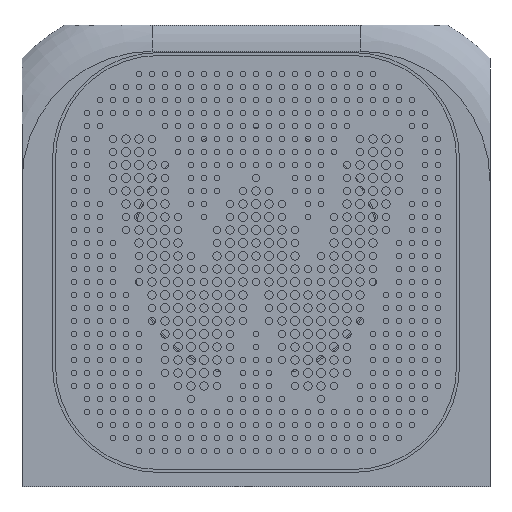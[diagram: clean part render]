
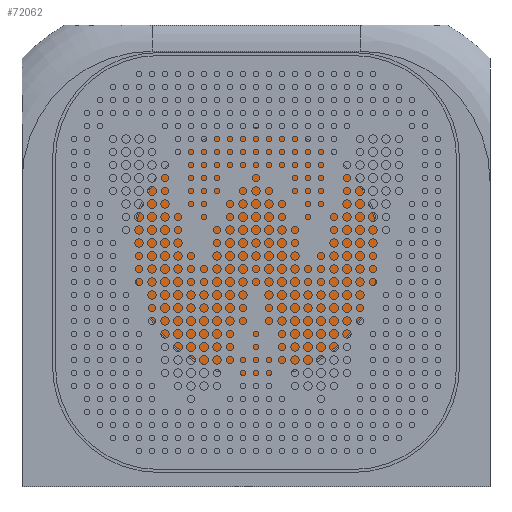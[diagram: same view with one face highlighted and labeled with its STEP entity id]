
A CAD part, front view. The second image highlights one B-rep face of the part: STEP entity #72062.
In plain terms, the highlighted planar face has unit normal (0, -1, 0).
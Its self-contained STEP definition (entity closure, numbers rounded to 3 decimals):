
#71978 = EDGE_CURVE('',#71979,#71979,#71981,.T.);
#71979 = VERTEX_POINT('',#71980);
#71980 = CARTESIAN_POINT('',(19.,-13.2,36.));
#71981 = SURFACE_CURVE('',#71982,(#71987,#71999),.PCURVE_S1.);
#71982 = CIRCLE('',#71983,19.);
#71983 = AXIS2_PLACEMENT_3D('',#71984,#71985,#71986);
#71984 = CARTESIAN_POINT('',(0.,-13.2,36.));
#71985 = DIRECTION('',(-0.,1.,0.));
#71986 = DIRECTION('',(1.,0.,0.));
#71987 = PCURVE('',#71988,#71993);
#71988 = CYLINDRICAL_SURFACE('',#71989,19.);
#71989 = AXIS2_PLACEMENT_3D('',#71990,#71991,#71992);
#71990 = CARTESIAN_POINT('',(0.,-13.2,36.));
#71991 = DIRECTION('',(0.,-1.,-0.));
#71992 = DIRECTION('',(1.,0.,0.));
#71993 = DEFINITIONAL_REPRESENTATION('',(#71994),#71998);
#71994 = LINE('',#71995,#71996);
#71995 = CARTESIAN_POINT('',(6.283,0.));
#71996 = VECTOR('',#71997,1.);
#71997 = DIRECTION('',(-1.,0.));
#71998 = ( GEOMETRIC_REPRESENTATION_CONTEXT(2) 
PARAMETRIC_REPRESENTATION_CONTEXT() REPRESENTATION_CONTEXT('2D SPACE',''
  ) );
#71999 = PCURVE('',#72000,#72005);
#72000 = PLANE('',#72001);
#72001 = AXIS2_PLACEMENT_3D('',#72002,#72003,#72004);
#72002 = CARTESIAN_POINT('',(0.,-13.2,36.));
#72003 = DIRECTION('',(0.,1.,0.));
#72004 = DIRECTION('',(1.,0.,0.));
#72005 = DEFINITIONAL_REPRESENTATION('',(#72006),#72010);
#72006 = CIRCLE('',#72007,19.);
#72007 = AXIS2_PLACEMENT_2D('',#72008,#72009);
#72008 = CARTESIAN_POINT('',(0.,0.));
#72009 = DIRECTION('',(1.,0.));
#72010 = ( GEOMETRIC_REPRESENTATION_CONTEXT(2) 
PARAMETRIC_REPRESENTATION_CONTEXT() REPRESENTATION_CONTEXT('2D SPACE',''
  ) );
#72062 = ADVANCED_FACE('',(#72063),#72000,.F.);
#72063 = FACE_BOUND('',#72064,.F.);
#72064 = EDGE_LOOP('',(#72065));
#72065 = ORIENTED_EDGE('',*,*,#71978,.T.);
